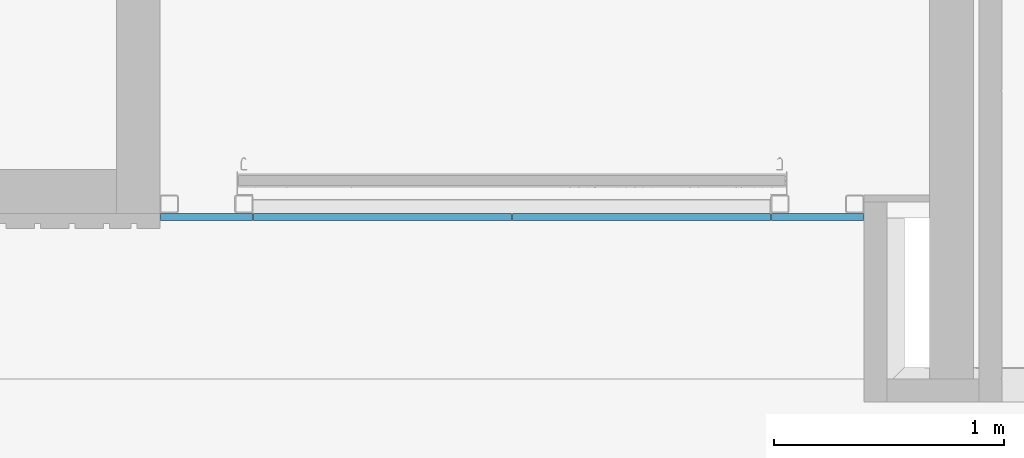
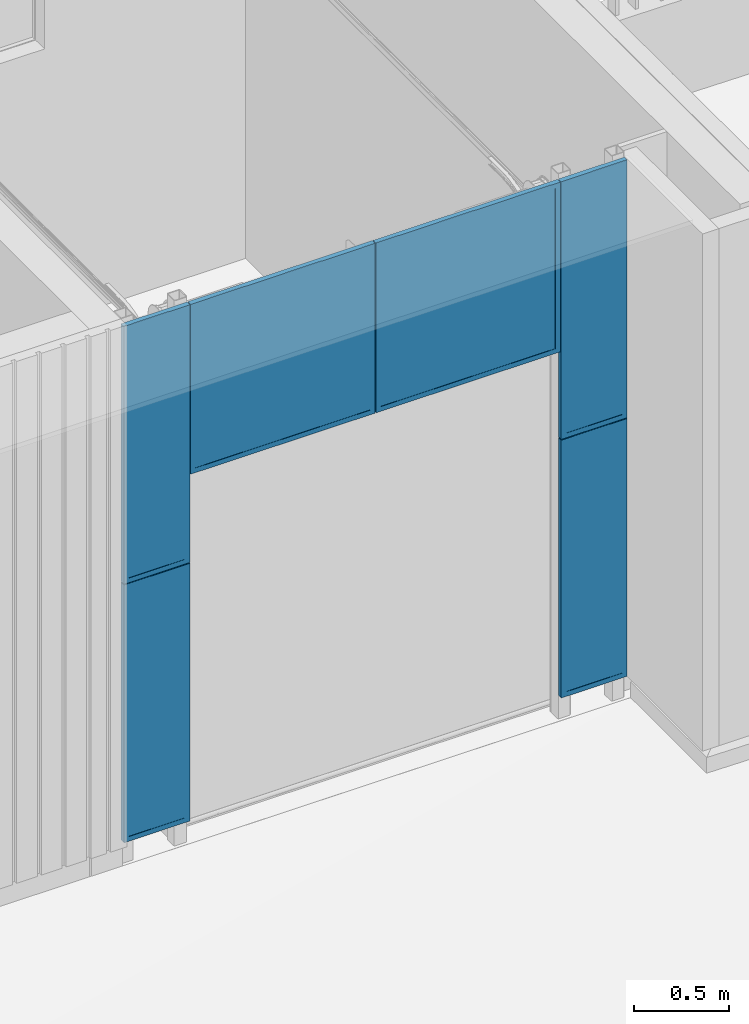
# One storey, part 57 of 77: 6 plates, 1 element without a shape of its own.
"""IFC2X3 building model written with IfcOpenShell, lengths in millimetres."""

import ifcopenshell
import ifcopenshell.guid

model = None  # the IFC model being written
_history = None  # IfcOwnerHistory: only IFC2X3 demands one
_inside = {}  # id of a spatial element -> (the spatial element, [elements in it])
_under = {}  # id of a project, library or spatial element -> (it, [spatial elements below it])
_declared = {}  # id of a project -> (the project, [libraries it declares])
_typed = {}  # id of a type object -> (the type object, [elements of that type])
_made_of = {}  # id of a material, layer set ... -> (it, [elements and type objects made of it])


def new_model(schema):
    """Start an empty IFC model of exactly this schema.

    Asked for "IFC4X3", IfcOpenShell would pick the latest addendum, in which some entities
    have other attributes; the version numbers below select the first issue.
    IFC2X3 requires an IfcOwnerHistory on every rooted entity: one is made here for all.
    """
    global model, _history
    if schema == "IFC4X3":
        model = ifcopenshell.file(schema_version=(4, 3, 0, 0))
    else:
        model = ifcopenshell.file(schema=schema)
    _inside.clear()
    _under.clear()
    _declared.clear()
    _typed.clear()
    _made_of.clear()
    _history = None
    if model.schema == "IFC2X3":
        org = make("IfcOrganization", Name="unknown")
        user = make(
            "IfcPersonAndOrganization",
            ThePerson=make("IfcPerson", FamilyName="unknown"),
            TheOrganization=org,
        )
        app = make(
            "IfcApplication",
            ApplicationDeveloper=org,
            Version="unknown",
            ApplicationFullName="unknown",
            ApplicationIdentifier="unknown",
        )
        _history = make(
            "IfcOwnerHistory",
            OwningUser=user,
            OwningApplication=app,
            ChangeAction="ADDED",
            CreationDate=0,
        )
    return model


def make(cls, **values):
    """One entity of the class cls with the attributes given. An attribute that is None is left unset."""
    return model.create_entity(
        cls, **{name: value for name, value in values.items() if value is not None}
    )


def entity(cls, *values):
    """Any entity or typed value of the class cls, its attributes in the order of the schema. None: left unset."""
    e = model.create_entity(cls)
    for i, value in enumerate(values):
        if value is not None:
            e[i] = value
    return e


def rooted(cls, **values):
    """An entity with a GlobalId (a new one), such as an element, a storey or a relation."""
    return make(cls, GlobalId=ifcopenshell.guid.new(), OwnerHistory=_history, **values)


def si_unit(unit_type, name, prefix=None):
    """IfcSIUnit, for example si_unit("LENGTHUNIT", "METRE", prefix="MILLI")."""
    return make("IfcSIUnit", UnitType=unit_type, Prefix=prefix, Name=name)


def converted_unit(unit_type, name, factor, base, dimensions=None, offset=None):
    """IfcConversionBasedUnit, such as the inch: factor (a typed value) times the base unit."""
    return make(
        "IfcConversionBasedUnit"
        if offset is None
        else "IfcConversionBasedUnitWithOffset",
        ConversionOffset=offset,
        Dimensions=None
        if dimensions is None
        else entity("IfcDimensionalExponents", *dimensions),
        UnitType=unit_type,
        Name=name,
        ConversionFactor=make(
            "IfcMeasureWithUnit", ValueComponent=factor, UnitComponent=base
        ),
    )


def derived_unit(unit_type, elements):
    """IfcDerivedUnit: a product of units, each with its exponent."""
    return make(
        "IfcDerivedUnit",
        Elements=[
            make("IfcDerivedUnitElement", Unit=unit, Exponent=power)
            for unit, power in elements
        ],
        UnitType=unit_type,
    )


def assignment(units):
    """IfcUnitAssignment: the units of a project."""
    return None if units is None else make("IfcUnitAssignment", Units=units)


def point(xyz):
    """IfcCartesianPoint."""
    return None if xyz is None else make("IfcCartesianPoint", Coordinates=xyz)


def direction(xyz):
    """IfcDirection."""
    return None if xyz is None else make("IfcDirection", DirectionRatios=xyz)


def frame(location, z_axis=None, x_axis=None):
    """IfcAxis2Placement3D, a coordinate frame: its origin and axes. An axis left out is left unset."""
    return make(
        "IfcAxis2Placement3D",
        Location=point(location),
        Axis=direction(z_axis),
        RefDirection=direction(x_axis),
    )


def origin():
    """The frame at (0, 0, 0) with its axes left unset."""
    return frame((0.0, 0.0, 0.0))


def place(relative_to, where):
    """IfcLocalPlacement: puts the frame where relative to a parent placement (None: the world)."""
    return make(
        "IfcLocalPlacement", PlacementRelTo=relative_to, RelativePlacement=where
    )


def context(
    kind, dimensions, precision=None, world=None, true_north=None, identifier=None
):
    """IfcGeometricRepresentationContext, for example the 3D "Model" context."""
    return make(
        "IfcGeometricRepresentationContext",
        ContextIdentifier=identifier,
        ContextType=kind,
        CoordinateSpaceDimension=dimensions,
        Precision=precision,
        WorldCoordinateSystem=world,
        TrueNorth=true_north,
    )


def subcontext(parent, identifier, kind, view, scale=None):
    """IfcGeometricRepresentationSubContext, for example "Body" below "Model"."""
    return make(
        "IfcGeometricRepresentationSubContext",
        ContextIdentifier=identifier,
        ContextType=kind,
        ParentContext=parent,
        TargetScale=scale,
        TargetView=view,
    )


def project(units=None, contexts=None):
    """IfcProject with its units and contexts."""
    return rooted(
        "IfcProject",
        Name="project",
        RepresentationContexts=contexts,
        UnitsInContext=assignment(units),
    )


def spatial(cls, under=None, at=None, **own):
    """A site, building, storey or space (cls), placed at a placement, below another one or the project."""
    s = rooted(cls, ObjectPlacement=at, **own)
    if under is not None:
        _under.setdefault(under.id(), (under, []))[1].append(s)
    return s


def faces_of(points, faces, orient=None, outer=None):
    """IfcFace entities. A face is a list of loops; a loop is a list of indices into points, from 0.

    orient and outer hold one flag for each loop. By default every Orientation is true, the
    first loop of a face is its IfcFaceOuterBound and the others are IfcFaceBound.
    """
    made = []
    for i, loops in enumerate(faces):
        bounds = []
        for j, loop in enumerate(loops):
            is_outer = j == 0 if outer is None else outer[i][j]
            bounds.append(
                make(
                    "IfcFaceOuterBound" if is_outer else "IfcFaceBound",
                    Bound=make("IfcPolyLoop", Polygon=[points[k] for k in loop]),
                    Orientation=True if orient is None else orient[i][j],
                )
            )
        made.append(make("IfcFace", Bounds=bounds))
    return made


def faceted_brep(points, faces, orient=None, outer=None, voids=None):
    """IfcFacetedBrep: a solid bounded by flat faces; with voids (closed shells), ...WithVoids."""
    shared = [point(p) for p in points]
    hull = make("IfcClosedShell", CfsFaces=faces_of(shared, faces, orient, outer))
    if voids is None:
        return make("IfcFacetedBrep", Outer=hull)
    return make(
        "IfcFacetedBrepWithVoids",
        Outer=hull,
        Voids=[
            make(cls, CfsFaces=faces_of(shared, fs, o, b)) for cls, fs, o, b in voids
        ],
    )


def shape(context_of_items, identifier, shape_type, items):
    """IfcShapeRepresentation: the items that make up one representation, for example the "Body"."""
    return make(
        "IfcShapeRepresentation",
        ContextOfItems=context_of_items,
        RepresentationIdentifier=identifier,
        RepresentationType=shape_type,
        Items=items,
    )


def source(mapping_origin, context_of_items, identifier, shape_type, items):
    """IfcRepresentationMap: a shape defined once, which mapped items show again and again."""
    return make(
        "IfcRepresentationMap",
        MappingOrigin=mapping_origin,
        MappedRepresentation=shape(context_of_items, identifier, shape_type, items),
    )


def transform(
    local_origin,
    x_axis=None,
    y_axis=None,
    z_axis=None,
    scale=None,
    scale2=None,
    scale3=None,
    uniform=True,
):
    """IfcCartesianTransformationOperator3D, or its non-uniform kind. x_axis, y_axis, z_axis: its Axis1, 2, 3."""
    if uniform:
        return make(
            "IfcCartesianTransformationOperator3D",
            Axis1=direction(x_axis),
            Axis2=direction(y_axis),
            LocalOrigin=point(local_origin),
            Scale=scale,
            Axis3=direction(z_axis),
        )
    return make(
        "IfcCartesianTransformationOperator3DnonUniform",
        Axis1=direction(x_axis),
        Axis2=direction(y_axis),
        LocalOrigin=point(local_origin),
        Scale=scale,
        Axis3=direction(z_axis),
        Scale2=scale2,
        Scale3=scale3,
    )


def mapped(mapping_source, mapping_target):
    """IfcMappedItem: shows the shape of a source again, moved by a transform."""
    return make(
        "IfcMappedItem", MappingSource=mapping_source, MappingTarget=mapping_target
    )


def material(Name=None, Category=None):
    """IfcMaterial."""
    return make("IfcMaterial", Name=Name, Category=Category)


def material_list(materials):
    """IfcMaterialList."""
    return make("IfcMaterialList", Materials=materials)


def made_of(thing, what):
    """Note that an element or type object is made of a material, layer set ...; save() writes the relation."""
    if what is not None:
        _made_of.setdefault(what.id(), (what, []))[1].append(thing)
    return thing


def type_object(cls, material=None, **own):
    """A type object (cls), such as IfcWallType, which elements share."""
    return made_of(rooted(cls, **own), material)


def type_shapes(of_type, sources):
    """Give a type object the sources (RepresentationMaps) that its elements show as mapped items."""
    of_type.RepresentationMaps = sources


def element(
    cls,
    number,
    at=None,
    inside=None,
    cuts=None,
    type_object=None,
    material=None,
    context=None,
    identifier="Body",
    shape_type=None,
    held_by="IfcProductDefinitionShape",
    body=None,
    shapes=None,
    **own,
):
    """One element of the class cls, such as IfcWall. Its Tag is "e" and its number.

    at: its placement. inside: the storey or other place that contains it. cuts: it is an
    opening in that element (IfcRelVoidsElement). A single representation is given by context,
    identifier, shape_type and body (its items); several are given by shapes. held_by: the class
    of the entity that holds the representations. save() writes the other relations.
    """
    e = rooted(cls, Tag="e%d" % number, ObjectPlacement=at, **own)
    if body is not None:
        shapes = [shape(context, identifier, shape_type, body)]
    if shapes is not None:
        e.Representation = make(held_by, Representations=shapes)
    if inside is not None:
        _inside.setdefault(inside.id(), (inside, []))[1].append(e)
    if cuts is not None:
        rooted(
            "IfcRelVoidsElement", RelatingBuildingElement=cuts, RelatedOpeningElement=e
        )
    if type_object is not None:
        _typed.setdefault(type_object.id(), (type_object, []))[1].append(e)
    return made_of(e, material)


def aggregate(whole, parts):
    """IfcRelAggregates: a whole, such as a stair, and the parts it consists of."""
    return rooted("IfcRelAggregates", RelatingObject=whole, RelatedObjects=parts)


def save(model, path):
    """Write the relations noted so far, then the file.

    IfcRelAggregates (storeys below a building ...), IfcRelContainedInSpatialStructure (elements
    in a storey), IfcRelDefinesByType, IfcRelAssociatesMaterial and IfcRelDeclares: one each for
    every whole, place, type object, material and project.
    """
    for whole, parts in _under.values():
        aggregate(whole, parts)
    for where, things in _inside.values():
        rooted(
            "IfcRelContainedInSpatialStructure",
            RelatedElements=things,
            RelatingStructure=where,
        )
    for kind, things in _typed.values():
        rooted("IfcRelDefinesByType", RelatedObjects=things, RelatingType=kind)
    for what, things in _made_of.values():
        rooted("IfcRelAssociatesMaterial", RelatedObjects=things, RelatingMaterial=what)
    for by, libraries in _declared.values():
        rooted("IfcRelDeclares", RelatingContext=by, RelatedDefinitions=libraries)
    model.write(path)


model = new_model("IFC2X3")

# Units and contexts
model_context = context("Model", 3, precision=0.01, world=origin(), true_north=direction((6.12303176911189e-17, 1.0)))
body_context = subcontext(model_context, "Body", "Model", "MODEL_VIEW")
ifc_project = project(units=[si_unit("LENGTHUNIT", "METRE", prefix="MILLI"), si_unit("AREAUNIT", "SQUARE_METRE"), si_unit("VOLUMEUNIT", "CUBIC_METRE"), converted_unit("PLANEANGLEUNIT", "DEGREE", entity("IfcRatioMeasure", 0.0174532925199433), si_unit("PLANEANGLEUNIT", "RADIAN"), dimensions=[0, 0, 0, 0, 0, 0, 0]), si_unit("MASSUNIT", "GRAM", prefix="KILO"), derived_unit("MASSDENSITYUNIT", [(si_unit("MASSUNIT", "GRAM", prefix="KILO"), 1), (si_unit("LENGTHUNIT", "METRE"), -3)]), si_unit("TIMEUNIT", "SECOND"), si_unit("FREQUENCYUNIT", "HERTZ"), si_unit("THERMODYNAMICTEMPERATUREUNIT", "DEGREE_CELSIUS"), derived_unit("THERMALTRANSMITTANCEUNIT", [(si_unit("MASSUNIT", "GRAM", prefix="KILO"), 1), (si_unit("THERMODYNAMICTEMPERATUREUNIT", "KELVIN"), -1), (si_unit("TIMEUNIT", "SECOND"), -3)]), derived_unit("VOLUMETRICFLOWRATEUNIT", [(si_unit("LENGTHUNIT", "METRE"), 3), (si_unit("TIMEUNIT", "SECOND"), -1)]), si_unit("ELECTRICCURRENTUNIT", "AMPERE"), si_unit("ELECTRICVOLTAGEUNIT", "VOLT"), si_unit("POWERUNIT", "WATT"), si_unit("FORCEUNIT", "NEWTON", prefix="KILO"), si_unit("ILLUMINANCEUNIT", "LUX"), si_unit("LUMINOUSFLUXUNIT", "LUMEN"), si_unit("LUMINOUSINTENSITYUNIT", "CANDELA"), derived_unit("USERDEFINED", [(si_unit("MASSUNIT", "GRAM", prefix="KILO"), -1), (si_unit("LENGTHUNIT", "METRE"), -2), (si_unit("TIMEUNIT", "SECOND"), 3), (si_unit("LUMINOUSFLUXUNIT", "LUMEN"), 1)]), derived_unit("LINEARVELOCITYUNIT", [(si_unit("LENGTHUNIT", "METRE"), 1), (si_unit("TIMEUNIT", "SECOND"), -1)]), si_unit("PRESSUREUNIT", "PASCAL"), derived_unit("USERDEFINED", [(si_unit("LENGTHUNIT", "METRE"), -2), (si_unit("MASSUNIT", "GRAM", prefix="KILO"), 1), (si_unit("TIMEUNIT", "SECOND"), -2)])], contexts=[model_context])

# Site, building, storey
site_placement = place(None, origin())
site = spatial("IfcSite", under=ifc_project, at=site_placement, Name="Default", CompositionType="ELEMENT")
building_placement = place(site_placement, origin())
building = spatial("IfcBuilding", under=site, at=building_placement, CompositionType="ELEMENT")
storey_placement = place(building_placement, origin())
storey = spatial("IfcBuildingStorey", under=building, at=storey_placement, Name="1. KORRUS", CompositionType="ELEMENT", Elevation=0.0)

# Curtain wall, plates
curtain_wall_type = type_object("IfcCurtainWallType", Name="Curtain Wall:võresein VP2", PredefinedType="NOTDEFINED")
curtain_wall_placement = place(storey_placement, origin())
curtain_wall = element("IfcCurtainWall", 1, at=curtain_wall_placement, inside=storey, type_object=curtain_wall_type, Name="Curtain Wall:võresein VP2", ObjectType="Curtain Wall:võresein VP2")
ifc_material_1 = material(Name="venitatud lehtvõrk R1,5/2,5L, must")
ifc_material_2 = material(Name="teras, võrkpaneeli raam")
ifc_material_list_1 = material_list([ifc_material_1, ifc_material_2])
ifc_material_list_2 = material_list([ifc_material_1, ifc_material_2])
plate_type_1 = type_object("IfcPlateType", Name="võrkpaneel", PredefinedType="CURTAIN_PANEL", material=ifc_material_list_2)
shared_shape_1 = source(origin(), body_context, "Body", "Brep", [
    faceted_brep([(398.00101191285, 8.0, 1655.5), (398.00101191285, 8.0, 2.0), (2.0, 8.0, 2.0), (2.0, 8.0, 1655.5), (398.00101191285, 2.0, 1655.5), (2.0, 2.0, 1655.5), (2.0, 2.0, 2.0), (398.00101191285, 2.0, 2.0)], [[[0, 1, 2, 3]], [[4, 5, 6, 7]], [[3, 5, 4, 0]], [[2, 6, 5, 3]], [[1, 7, 6, 2]], [[0, 4, 7, 1]]]),
    faceted_brep([(30.0, 2.0, 30.0), (30.0, 2.0, 1625.0), (30.0, 0.0, 1625.0), (30.0, 0.0, 30.0), (2.0, 30.0, 2.0), (2.0, 30.0, 1653.0), (2.0, 2.0, 1653.0), (2.0, 2.0, 2.0), (0.0, 0.0, 0.0), (0.0, 0.0, 1655.0), (0.0, 30.0, 1655.0), (0.0, 30.0, 0.0), (370.001011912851, 2.0, 1625.0), (370.001011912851, 0.0, 1625.0), (398.00101191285, 30.0, 1653.0), (398.00101191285, 2.0, 1653.0), (400.001011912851, 0.0, 1655.0), (400.001011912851, 30.0, 1655.0), (370.001011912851, 2.0, 30.0), (370.001011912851, 0.0, 30.0), (398.00101191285, 30.0, 2.0), (398.00101191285, 2.0, 2.0), (400.001011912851, 0.0, 0.0), (400.001011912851, 30.0, 0.0)], [[[0, 1, 2, 3]], [[4, 5, 6, 7]], [[8, 9, 10, 11]], [[1, 12, 13, 2]], [[5, 14, 15, 6]], [[9, 16, 17, 10]], [[12, 18, 19, 13]], [[14, 20, 21, 15]], [[16, 22, 23, 17]], [[18, 0, 3, 19]], [[1, 0, 18, 12], [7, 6, 15, 21]], [[20, 4, 7, 21]], [[5, 4, 20, 14], [11, 10, 17, 23]], [[22, 8, 11, 23]], [[3, 2, 13, 19], [9, 8, 22, 16]]], outer=[[True], [True], [True], [True], [True], [True], [True], [True], [True], [True], [False, True], [True], [False, True], [True], [False, True]]),
])
type_shapes(plate_type_1, [shared_shape_1])
plate_1_placement = place(curtain_wall_placement, frame((5742.26481329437, 36090.0, 52.5)))
plate_1 = element("IfcPlate", 2, at=plate_1_placement, type_object=plate_type_1, material=ifc_material_list_1, Name="võrkpaneel:võrkpaneel", ObjectType="võrkpaneel", context=body_context, shape_type="MappedRepresentation", body=[
    mapped(shared_shape_1, transform((0.0, 0.0, 0.0), scale=1.0)),
])
ifc_material_list_3 = material_list([ifc_material_1, ifc_material_2])
ifc_material_list_4 = material_list([ifc_material_1, ifc_material_2])
plate_type_2 = type_object("IfcPlateType", Name="võrkpaneel", PredefinedType="CURTAIN_PANEL", material=ifc_material_list_4)
shared_shape_2 = source(origin(), body_context, "Body", "Brep", [
    faceted_brep([(398.0, 8.0, 1655.5), (398.0, 8.0, 2.0), (2.0, 8.0, 2.0), (2.0, 8.0, 1655.5), (398.0, 2.0, 1655.5), (2.0, 2.0, 1655.5), (2.0, 2.0, 2.0), (398.0, 2.0, 2.0)], [[[0, 1, 2, 3]], [[4, 5, 6, 7]], [[3, 5, 4, 0]], [[2, 6, 5, 3]], [[1, 7, 6, 2]], [[0, 4, 7, 1]]]),
    faceted_brep([(30.0, 2.0, 30.0), (30.0, 2.0, 1625.0), (30.0, 0.0, 1625.0), (30.0, 0.0, 30.0), (2.0, 30.0, 2.0), (2.0, 30.0, 1653.0), (2.0, 2.0, 1653.0), (2.0, 2.0, 2.0), (0.0, 0.0, 0.0), (0.0, 0.0, 1655.0), (0.0, 30.0, 1655.0), (0.0, 30.0, 0.0), (370.0, 2.0, 1625.0), (370.0, 0.0, 1625.0), (398.0, 30.0, 1653.0), (398.0, 2.0, 1653.0), (400.0, 0.0, 1655.0), (400.0, 30.0, 1655.0), (370.0, 2.0, 30.0), (370.0, 0.0, 30.0), (398.0, 30.0, 2.0), (398.0, 2.0, 2.0), (400.0, 0.0, 0.0), (400.0, 30.0, 0.0)], [[[0, 1, 2, 3]], [[4, 5, 6, 7]], [[8, 9, 10, 11]], [[1, 12, 13, 2]], [[5, 14, 15, 6]], [[9, 16, 17, 10]], [[12, 18, 19, 13]], [[14, 20, 21, 15]], [[16, 22, 23, 17]], [[18, 0, 3, 19]], [[1, 0, 18, 12], [7, 6, 15, 21]], [[20, 4, 7, 21]], [[5, 4, 20, 14], [11, 10, 17, 23]], [[22, 8, 11, 23]], [[3, 2, 13, 19], [9, 8, 22, 16]]], outer=[[True], [True], [True], [True], [True], [True], [True], [True], [True], [True], [False, True], [True], [False, True], [True], [False, True]]),
])
type_shapes(plate_type_2, [shared_shape_2])
plate_2_placement = place(curtain_wall_placement, frame((8397.26481329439, 36090.0, 52.5)))
plate_2 = element("IfcPlate", 3, at=plate_2_placement, type_object=plate_type_2, material=ifc_material_list_3, Name="võrkpaneel:võrkpaneel", ObjectType="võrkpaneel", context=body_context, shape_type="MappedRepresentation", body=[
    mapped(shared_shape_2, transform((0.0, 0.0, 0.0), scale=1.0)),
])
ifc_material_list_5 = material_list([ifc_material_1, ifc_material_2])
ifc_material_list_6 = material_list([ifc_material_1, ifc_material_2])
plate_type_3 = type_object("IfcPlateType", Name="võrkpaneel", PredefinedType="CURTAIN_PANEL", material=ifc_material_list_6)
shared_shape_3 = source(origin(), body_context, "Body", "Brep", [
    faceted_brep([(398.00101191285, 8.0, 1655.5), (398.00101191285, 8.0, 2.0), (2.0, 8.0, 2.0), (2.0, 8.0, 1655.5), (398.00101191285, 2.0, 1655.5), (2.0, 2.0, 1655.5), (2.0, 2.0, 2.0), (398.00101191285, 2.0, 2.0)], [[[0, 1, 2, 3]], [[4, 5, 6, 7]], [[3, 5, 4, 0]], [[2, 6, 5, 3]], [[1, 7, 6, 2]], [[0, 4, 7, 1]]]),
    faceted_brep([(30.0, 2.0, 30.0), (30.0, 2.0, 1625.0), (30.0, 0.0, 1625.0), (30.0, 0.0, 30.0), (2.0, 30.0, 2.0), (2.0, 30.0, 1653.0), (2.0, 2.0, 1653.0), (2.0, 2.0, 2.0), (0.0, 0.0, 0.0), (0.0, 0.0, 1655.0), (0.0, 30.0, 1655.0), (0.0, 30.0, 0.0), (370.001011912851, 2.0, 1625.0), (370.001011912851, 0.0, 1625.0), (398.00101191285, 30.0, 1653.0), (398.00101191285, 2.0, 1653.0), (400.001011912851, 0.0, 1655.0), (400.001011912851, 30.0, 1655.0), (370.001011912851, 2.0, 30.0), (370.001011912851, 0.0, 30.0), (398.00101191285, 30.0, 2.0), (398.00101191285, 2.0, 2.0), (400.001011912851, 0.0, 0.0), (400.001011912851, 30.0, 0.0)], [[[0, 1, 2, 3]], [[4, 5, 6, 7]], [[8, 9, 10, 11]], [[1, 12, 13, 2]], [[5, 14, 15, 6]], [[9, 16, 17, 10]], [[12, 18, 19, 13]], [[14, 20, 21, 15]], [[16, 22, 23, 17]], [[18, 0, 3, 19]], [[1, 0, 18, 12], [7, 6, 15, 21]], [[20, 4, 7, 21]], [[5, 4, 20, 14], [11, 10, 17, 23]], [[22, 8, 11, 23]], [[3, 2, 13, 19], [9, 8, 22, 16]]], outer=[[True], [True], [True], [True], [True], [True], [True], [True], [True], [True], [False, True], [True], [False, True], [True], [False, True]]),
])
type_shapes(plate_type_3, [shared_shape_3])
plate_3_placement = place(curtain_wall_placement, frame((5742.26481329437, 36090.0, 1712.5)))
plate_3 = element("IfcPlate", 4, at=plate_3_placement, type_object=plate_type_3, material=ifc_material_list_5, Name="võrkpaneel:võrkpaneel", ObjectType="võrkpaneel", context=body_context, shape_type="MappedRepresentation", body=[
    mapped(shared_shape_3, transform((0.0, 0.0, 0.0), scale=1.0)),
])
ifc_material_list_7 = material_list([ifc_material_1, ifc_material_2])
ifc_material_list_8 = material_list([ifc_material_1, ifc_material_2])
plate_type_4 = type_object("IfcPlateType", Name="võrkpaneel", PredefinedType="CURTAIN_PANEL", material=ifc_material_list_8)
shared_shape_4 = source(origin(), body_context, "Body", "Brep", [
    faceted_brep([(398.0, 8.0, 1655.5), (398.0, 8.0, 2.0), (2.0, 8.0, 2.0), (2.0, 8.0, 1655.5), (398.0, 2.0, 1655.5), (2.0, 2.0, 1655.5), (2.0, 2.0, 2.0), (398.0, 2.0, 2.0)], [[[0, 1, 2, 3]], [[4, 5, 6, 7]], [[3, 5, 4, 0]], [[2, 6, 5, 3]], [[1, 7, 6, 2]], [[0, 4, 7, 1]]]),
    faceted_brep([(30.0, 2.0, 30.0), (30.0, 2.0, 1625.0), (30.0, 0.0, 1625.0), (30.0, 0.0, 30.0), (2.0, 30.0, 2.0), (2.0, 30.0, 1653.0), (2.0, 2.0, 1653.0), (2.0, 2.0, 2.0), (0.0, 0.0, 0.0), (0.0, 0.0, 1655.0), (0.0, 30.0, 1655.0), (0.0, 30.0, 0.0), (370.0, 2.0, 1625.0), (370.0, 0.0, 1625.0), (398.0, 30.0, 1653.0), (398.0, 2.0, 1653.0), (400.0, 0.0, 1655.0), (400.0, 30.0, 1655.0), (370.0, 2.0, 30.0), (370.0, 0.0, 30.0), (398.0, 30.0, 2.0), (398.0, 2.0, 2.0), (400.0, 0.0, 0.0), (400.0, 30.0, 0.0)], [[[0, 1, 2, 3]], [[4, 5, 6, 7]], [[8, 9, 10, 11]], [[1, 12, 13, 2]], [[5, 14, 15, 6]], [[9, 16, 17, 10]], [[12, 18, 19, 13]], [[14, 20, 21, 15]], [[16, 22, 23, 17]], [[18, 0, 3, 19]], [[1, 0, 18, 12], [7, 6, 15, 21]], [[20, 4, 7, 21]], [[5, 4, 20, 14], [11, 10, 17, 23]], [[22, 8, 11, 23]], [[3, 2, 13, 19], [9, 8, 22, 16]]], outer=[[True], [True], [True], [True], [True], [True], [True], [True], [True], [True], [False, True], [True], [False, True], [True], [False, True]]),
])
type_shapes(plate_type_4, [shared_shape_4])
plate_4_placement = place(curtain_wall_placement, frame((8397.26481329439, 36090.0, 1712.5)))
plate_4 = element("IfcPlate", 5, at=plate_4_placement, type_object=plate_type_4, material=ifc_material_list_7, Name="võrkpaneel:võrkpaneel", ObjectType="võrkpaneel", context=body_context, shape_type="MappedRepresentation", body=[
    mapped(shared_shape_4, transform((0.0, 0.0, 0.0), scale=1.0)),
])
ifc_material_list_9 = material_list([ifc_material_1, ifc_material_2])
ifc_material_list_10 = material_list([ifc_material_1, ifc_material_2])
plate_type_5 = type_object("IfcPlateType", Name="võrkpaneel", PredefinedType="CURTAIN_PANEL", material=ifc_material_list_10)
shared_shape_5 = source(origin(), body_context, "Body", "Brep", [
    faceted_brep([(1117.99898808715, 8.0, 1090.5), (1117.99898808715, 8.0, 2.0), (2.0, 8.0, 2.0), (2.0, 8.0, 1090.5), (1117.99898808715, 2.0, 1090.5), (2.0, 2.0, 1090.5), (2.0, 2.0, 2.0), (1117.99898808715, 2.0, 2.0)], [[[0, 1, 2, 3]], [[4, 5, 6, 7]], [[3, 5, 4, 0]], [[2, 6, 5, 3]], [[1, 7, 6, 2]], [[0, 4, 7, 1]]]),
    faceted_brep([(30.0, 2.0, 30.0), (30.0, 2.0, 1060.0), (30.0, 0.0, 1060.0), (30.0, 0.0, 30.0), (2.0, 30.0, 2.0), (2.0, 30.0, 1088.0), (2.0, 2.0, 1088.0), (2.0, 2.0, 2.0), (0.0, 0.0, 0.0), (0.0, 0.0, 1090.0), (0.0, 30.0, 1090.0), (0.0, 30.0, 0.0), (1089.99898808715, 2.0, 1060.0), (1089.99898808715, 0.0, 1060.0), (1117.99898808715, 30.0, 1088.0), (1117.99898808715, 2.0, 1088.0), (1119.99898808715, 0.0, 1090.0), (1119.99898808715, 30.0, 1090.0), (1089.99898808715, 2.0, 30.0), (1089.99898808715, 0.0, 30.0), (1117.99898808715, 30.0, 2.0), (1117.99898808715, 2.0, 2.0), (1119.99898808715, 0.0, 0.0), (1119.99898808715, 30.0, 0.0)], [[[0, 1, 2, 3]], [[4, 5, 6, 7]], [[8, 9, 10, 11]], [[1, 12, 13, 2]], [[5, 14, 15, 6]], [[9, 16, 17, 10]], [[12, 18, 19, 13]], [[14, 20, 21, 15]], [[16, 22, 23, 17]], [[18, 0, 3, 19]], [[1, 0, 18, 12], [7, 6, 15, 21]], [[20, 4, 7, 21]], [[5, 4, 20, 14], [11, 10, 17, 23]], [[22, 8, 11, 23]], [[3, 2, 13, 19], [9, 8, 22, 16]]], outer=[[True], [True], [True], [True], [True], [True], [True], [True], [True], [True], [False, True], [True], [False, True], [True], [False, True]]),
])
type_shapes(plate_type_5, [shared_shape_5])
plate_5_placement = place(curtain_wall_placement, frame((6147.26582520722, 36090.0, 2277.5)))
plate_5 = element("IfcPlate", 6, at=plate_5_placement, type_object=plate_type_5, material=ifc_material_list_9, Name="võrkpaneel:võrkpaneel", ObjectType="võrkpaneel", context=body_context, shape_type="MappedRepresentation", body=[
    mapped(shared_shape_5, transform((0.0, 0.0, 0.0), scale=1.0)),
])
ifc_material_list_11 = material_list([ifc_material_1, ifc_material_2])
ifc_material_list_12 = material_list([ifc_material_1, ifc_material_2])
plate_type_6 = type_object("IfcPlateType", Name="võrkpaneel", PredefinedType="CURTAIN_PANEL", material=ifc_material_list_12)
shared_shape_6 = source(origin(), body_context, "Body", "Brep", [
    faceted_brep([(1118.0, 8.0, 1090.5), (1118.0, 8.0, 2.0), (2.0, 8.0, 2.0), (2.0, 8.0, 1090.5), (1118.0, 2.0, 1090.5), (2.0, 2.0, 1090.5), (2.0, 2.0, 2.0), (1118.0, 2.0, 2.0)], [[[0, 1, 2, 3]], [[4, 5, 6, 7]], [[3, 5, 4, 0]], [[2, 6, 5, 3]], [[1, 7, 6, 2]], [[0, 4, 7, 1]]]),
    faceted_brep([(30.0, 2.0, 30.0), (30.0, 2.0, 1060.0), (30.0, 0.0, 1060.0), (30.0, 0.0, 30.0), (2.0, 30.0, 2.0), (2.0, 30.0, 1088.0), (2.0, 2.0, 1088.0), (2.0, 2.0, 2.0), (0.0, 0.0, 0.0), (0.0, 0.0, 1090.0), (0.0, 30.0, 1090.0), (0.0, 30.0, 0.0), (1090.0, 2.0, 1060.0), (1090.0, 0.0, 1060.0), (1118.0, 30.0, 1088.0), (1118.0, 2.0, 1088.0), (1120.0, 0.0, 1090.0), (1120.0, 30.0, 1090.0), (1090.0, 2.0, 30.0), (1090.0, 0.0, 30.0), (1118.0, 30.0, 2.0), (1118.0, 2.0, 2.0), (1120.0, 0.0, 0.0), (1120.0, 30.0, 0.0)], [[[0, 1, 2, 3]], [[4, 5, 6, 7]], [[8, 9, 10, 11]], [[1, 12, 13, 2]], [[5, 14, 15, 6]], [[9, 16, 17, 10]], [[12, 18, 19, 13]], [[14, 20, 21, 15]], [[16, 22, 23, 17]], [[18, 0, 3, 19]], [[1, 0, 18, 12], [7, 6, 15, 21]], [[20, 4, 7, 21]], [[5, 4, 20, 14], [11, 10, 17, 23]], [[22, 8, 11, 23]], [[3, 2, 13, 19], [9, 8, 22, 16]]], outer=[[True], [True], [True], [True], [True], [True], [True], [True], [True], [True], [False, True], [True], [False, True], [True], [False, True]]),
])
type_shapes(plate_type_6, [shared_shape_6])
plate_6_placement = place(curtain_wall_placement, frame((7272.26481329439, 36090.0, 2277.5)))
plate_6 = element("IfcPlate", 7, at=plate_6_placement, type_object=plate_type_6, material=ifc_material_list_11, Name="võrkpaneel:võrkpaneel", ObjectType="võrkpaneel", context=body_context, shape_type="MappedRepresentation", body=[
    mapped(shared_shape_6, transform((0.0, 0.0, 0.0), scale=1.0)),
])
aggregate(curtain_wall, [plate_1, plate_2, plate_3, plate_4, plate_5, plate_6])

save(model, "model.ifc")
